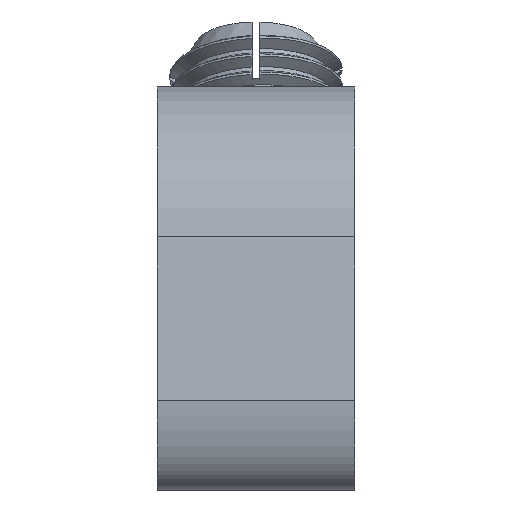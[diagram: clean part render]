
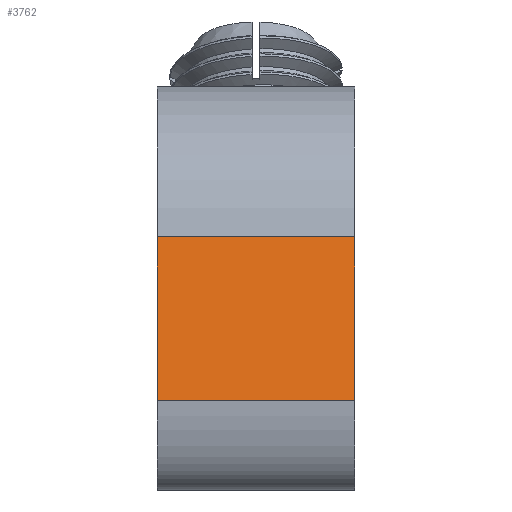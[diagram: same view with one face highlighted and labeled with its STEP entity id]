
A CAD part, front view. The second image highlights one B-rep face of the part: STEP entity #3762.
In plain terms, the highlighted planar face has unit normal (0, -0.985, 0.174).
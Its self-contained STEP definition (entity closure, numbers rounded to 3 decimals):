
#214=PLANE('',#4016);
#421=FACE_OUTER_BOUND('',#638,.T.);
#638=EDGE_LOOP('',(#3419,#3420,#3421,#3422));
#1171=LINE('',#7757,#1544);
#1172=LINE('',#7760,#1545);
#1173=LINE('',#7762,#1546);
#1174=LINE('',#7763,#1547);
#1544=VECTOR('',#4842,10.);
#1545=VECTOR('',#4845,10.);
#1546=VECTOR('',#4846,10.);
#1547=VECTOR('',#4847,10.);
#1878=VERTEX_POINT('',#7750);
#1881=VERTEX_POINT('',#7755);
#1882=VERTEX_POINT('',#7759);
#1883=VERTEX_POINT('',#7761);
#2416=EDGE_CURVE('',#1878,#1881,#1171,.T.);
#2417=EDGE_CURVE('',#1882,#1878,#1172,.T.);
#2418=EDGE_CURVE('',#1883,#1881,#1173,.T.);
#2419=EDGE_CURVE('',#1882,#1883,#1174,.T.);
#3419=ORIENTED_EDGE('',*,*,#2417,.T.);
#3420=ORIENTED_EDGE('',*,*,#2416,.T.);
#3421=ORIENTED_EDGE('',*,*,#2418,.F.);
#3422=ORIENTED_EDGE('',*,*,#2419,.F.);
#3762=ADVANCED_FACE('',(#421),#214,.T.);
#4016=AXIS2_PLACEMENT_3D('',#7758,#4843,#4844);
#4842=DIRECTION('',(-1.,0.,0.));
#4843=DIRECTION('center_axis',(0.,-0.985,0.174));
#4844=DIRECTION('ref_axis',(0.,0.174,0.985));
#4845=DIRECTION('',(0.,0.174,0.985));
#4846=DIRECTION('',(0.,0.174,0.985));
#4847=DIRECTION('',(-1.,0.,0.));
#7750=CARTESIAN_POINT('',(40.,27.459,20.994));
#7755=CARTESIAN_POINT('',(15.,27.459,20.994));
#7757=CARTESIAN_POINT('',(40.,27.459,20.994));
#7758=CARTESIAN_POINT('Origin',(40.,23.804,0.27));
#7759=CARTESIAN_POINT('',(40.,23.804,0.27));
#7760=CARTESIAN_POINT('',(40.,23.804,0.27));
#7761=CARTESIAN_POINT('',(15.,23.804,0.27));
#7762=CARTESIAN_POINT('',(15.,23.804,0.27));
#7763=CARTESIAN_POINT('',(40.,23.804,0.27));
